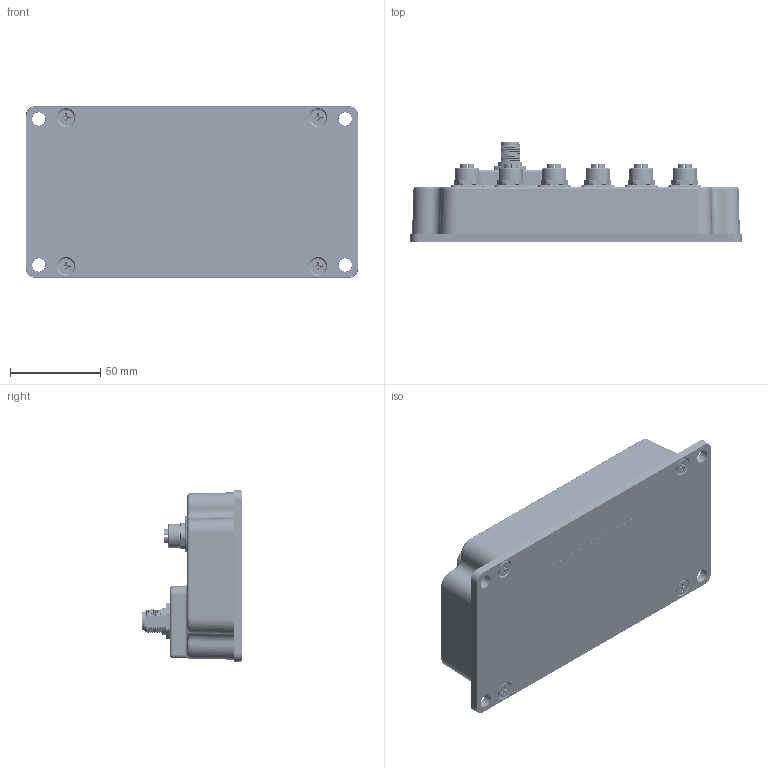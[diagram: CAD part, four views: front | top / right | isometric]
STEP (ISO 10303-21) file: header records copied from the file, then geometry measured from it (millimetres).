
FILE_DESCRIPTION (( 'STEP AP203' ), '1' );
FILE_NAME ('AX140705-P1.2.STEP', '2026-03-27T21:10:43', ( '' ), ( '' ), 'SwSTEP 2.0', 'SolidWorks 2023', '' );
FILE_SCHEMA (( 'CONFIG_CONTROL_DESIGN' ));
Length unit declared in the file: millimetre
Products named in the file (24): GAS-13018-01-R2; LBP-AX140705-01-R1; MMT-16010-01-R1; CTP-24028-01-R1; 09-344x-126-05 backnut; LBP-AX140705-02-R1; FHA-632-8; CAB-23024-01-R3; BINDER 99-3782-200-08 insert; CST-24028-01-R1; LBM-AX140705-01-R1; BINDER 99-3782-200-08 counter nut; CTP-19143-02-R1; AX140705-P1.2; PLP5-2-250; LBM-SERIAL-01-R3; BINDER 99-3782-200-08 shell; BINDER 09-3441-126-05; MG-24028-01 for STEP; GAS-16010-01-R1; MS-M5CX12SSPFU; M12 o ring; MOLEX_2125280600; MOL 2064610600
Assembly tree (62 placements, depth 4):
  AX140705-P1.2
    MG-24028-01 for STEP
      BINDER 99-3782-200-08 insert  x6
      CTP-24028-01-R1
        FHA-632-8  x4
        CST-24028-01-R1
      BINDER 99-3782-200-08 counter nut  x6
      PLP5-2-250  x13
      BINDER 99-3782-200-08 shell  x6
      GAS-16010-01-R1
      MMT-16010-01-R1
      CAB-23024-01-R3
        BINDER 09-3441-126-05
        MOL 2064610600
      09-344x-126-05 backnut
      MOLEX_2125280600
      CTP-19143-02-R1
      GAS-13018-01-R2
      MS-M5CX12SSPFU  x4
      LBM-SERIAL-01-R3  x2
    LBP-AX140705-01-R1
    LBP-AX140705-02-R1
    LBM-AX140705-01-R1
    M12 o ring  x6
Bounding box: 184.15 x 55.66 x 95.25 mm (x, y, z)
Volume: 196659.5 mm3; surface area: 171970.8 mm2
Topology: 125 solids, 149 shells, 10290 faces, 26811 edges, 17167 vertices
Faces by surface type: plane 4659, cylinder 2598, bspline 1618, cone 690, torus 586, sphere 139
Entity records: 285513 total; most frequent: CARTESIAN_POINT 145996, ORIENTED_EDGE 30758, DIRECTION 23145, EDGE_CURVE 15379, VERTEX_POINT 9986, LINE 9821, VECTOR 9821, AXIS2_PLACEMENT_3D 6662
